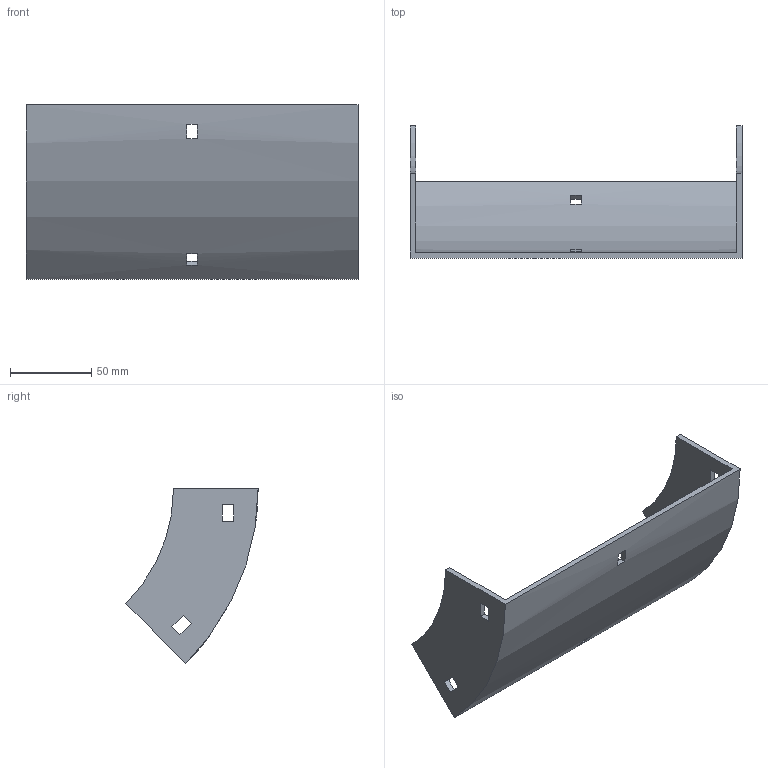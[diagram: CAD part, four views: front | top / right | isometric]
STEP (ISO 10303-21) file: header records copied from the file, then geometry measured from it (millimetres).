
FILE_DESCRIPTION (( 'STEP AP214' ), '1' );
FILE_NAME ('31B1B200.step', '2025-02-21T09:46:39', ( '' ), ( '' ), 'SwSTEP 2.0', 'SolidWorks 2023', '' );
FILE_SCHEMA (( 'AUTOMOTIVE_DESIGN' ));
Length unit declared in the file: millimetre
Products named in the file (1): 31B1B200
Bounding box: 204 x 81.29 x 107.48 mm (x, y, z)
Volume: 115994.6 mm3; surface area: 69643.4 mm2
Topology: 1 solids, 1 shells, 34 faces, 96 edges, 64 vertices
Faces by surface type: plane 30, cylinder 4
Entity records: 1143 total; most frequent: CARTESIAN_POINT 195, ORIENTED_EDGE 192, DIRECTION 182, EDGE_CURVE 96, VECTOR 80, LINE 80, VERTEX_POINT 64, AXIS2_PLACEMENT_3D 51
